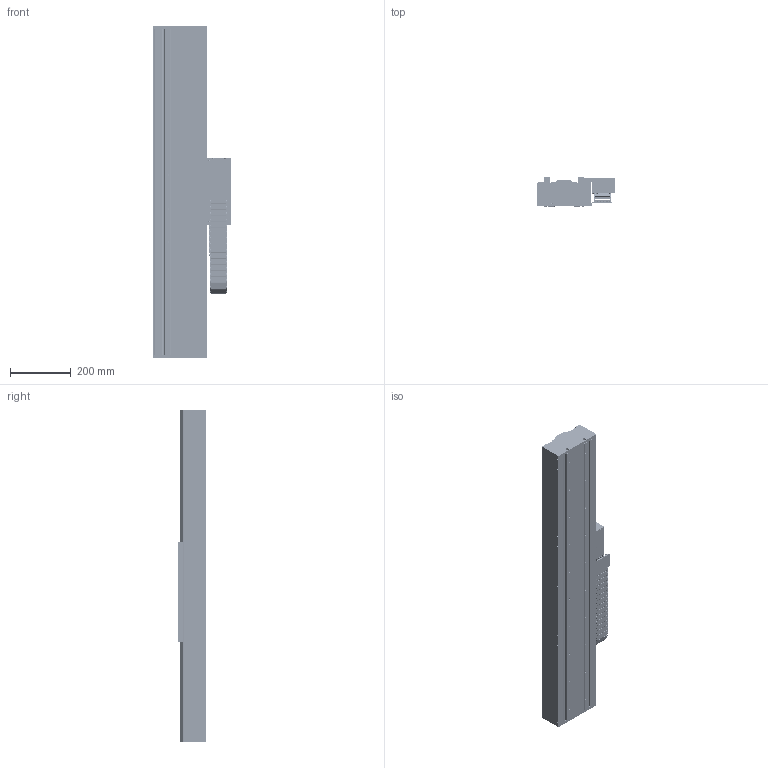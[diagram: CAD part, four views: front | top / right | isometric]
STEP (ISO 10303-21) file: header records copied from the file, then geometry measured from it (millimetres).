
FILE_DESCRIPTION (( 'STEP AP203' ), '1' );
FILE_NAME ('STF35230E-xC1B-Bxx.STEP', '2007-07-02T21:05:13', ( 'Yaskawa' ), ( 'Yaskawa' ), 'SwSTEP 2.0', 'SolidWorks 2007', '' );
FILE_SCHEMA (( 'CONFIG_CONTROL_DESIGN' ));
Length unit declared in the file: millimetre
Products named in the file (61): SGLFM-35324AC; STF20120F; End Stop with Bumper; STCM-002-R2 Cable Assembly Front; STF2035-006 Endplate; STF35230E-xC1B-Bxx; STF2035-003 Renishaw Encoder Mount; 07.50.028.0_99; 07.50.028.0_96; B18.3.1M - 6 x 1.0 x 16 Hex SHCS -- 16NHX_B18.3.1M - 6 x 1.0 x 16 Hex SHCS -- 16NHX; STF35BM Base_STF35120-006; STCM-007 Lower E-Chain Bracket; 07.50.028.0_98; 07.50.028.0_97; STF35120 Base_STF35BM-006; 07.50.028.0_102; RGH22B; STF2035-009-02 Top Cover 2_F; STF2035-002B-R1 F35-230 Carriage Horn; Mult-SR15+580LY_006; STCM-001-R2 Cable Bracket; STCM-004 Cable Assembly Side; STF2035-010-02 Side Cover 2_F; 07.50.028.0_106; 07.50.028.0_113; STCM-R1; 07.50.028.0_107; STF2035-007 End Stop; 07.50.028.0_101; Serial Converter; STF2035-004 Flag; Bumper-Medium; STCM-005-R1 Cable Assembly Cover; STCM-006-R1 Upper E-chain Bracket; STF35230 Complete Carriage; 07.50.028.0_100; 07.50.028.0_108; 07.50.028.0_109; 07.50.028.0_110; 07.50.028.0_112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
Assembly tree (86 placements, depth 4):
  STF35230E-xC1B-Bxx
    STCM-007 Lower E-Chain Bracket
    STF2035-006 Endplate  x2
    STF2035-009-02 Top Cover 2_F
    STF2035-010-02 Side Cover 2_F  x2
    STF35BM Base_STF35120-006
      End Stop with Bumper  x4
        STF2035-007 End Stop
        Bumper-Medium
        B18.3.1M - 6 x 1.0 x 16 Hex SHCS -- 16NHX_B18.3.1M - 6 x 1.0 x 16 Hex SHCS -- 16NHX
      Mult-SR15+580LY_006  x2
      SGLFM-35324AC  x3
      STF35120 Base_STF35BM-006
    STF35230 Complete Carriage
      SSR15W Block  x6
      STCM-R1
        STCM-005-R1 Cable Assembly Cover
        STCM-001-R2 Cable Bracket
        Serial Converter
        B18.3.4M - 3 x 0.5 x 12 SBHCS --N_B18.3.4M - 3 x 0.5 x 12 SBHCS --N  x4
        B18.3.5M - 3 x 0.5 x 6 Socket FCHS  -- 6N_B18.3.5M - 3 x 0.5 x 6 Socket FCHS  -- 6N  x6
        STCM-006-R1 Upper E-chain Bracket
        STCM-003 Cable Assembly Bottom
        STCM-004 Cable Assembly Side
        STCM-002-R2 Cable Assembly Front
      STF2035-002B-R1 F35-230 Carriage Horn  x2
      STF2035-001D F35-230 Carriage
      STF2035-003 Renishaw Encoder Mount
      RGH22B
      STF2035-005-R2 Cable Router
      STF2035-004 Flag
      SGLFW-35A230AP
    STF20120F
      07.50.028.0_105  x3
      07.50.028.0_96
      07.50.028.0_123
      07.50.028.0_101
      07.50.028.0_117
      07.50.028.0_103
      07.50.028.0_111  x3
      07.50.028.0_104
      07.50.028.0_115
      07.50.028.0_98
      07.50.028.0_110
      07.50.028.0_112
      07.50.028.0_97
      07.50.028.0_114
      07.50.028.0_118
      07.50.028.0_120
      07.50.028.0_107
      07.50.028.0_119
      07.50.028.0_113
      07.50.028.0_99
      07.50.028.0_100
      07.50.028.0_102
      07.50.028.0_106
      07.50.028.0_121
      07.50.028.0_108
      07.50.028.0_116
      07.50.028.0_109
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Bounding box: 254.2 x 94.7 x 1089.05 mm (x, y, z)
Volume: 7311770.8 mm3; surface area: 2377610.3 mm2
Topology: 117 solids, 117 shells, 6439 faces, 16611 edges, 10561 vertices
Faces by surface type: plane 3280, cylinder 2545, cone 512, bspline 62, torus 32, sphere 8
Entity records: 133942 total; most frequent: DIRECTION 22597, CARTESIAN_POINT 22205, ORIENTED_EDGE 20958, EDGE_CURVE 10479, AXIS2_PLACEMENT_3D 7950, VERTEX_POINT 6857, LINE 6697, VECTOR 6697
